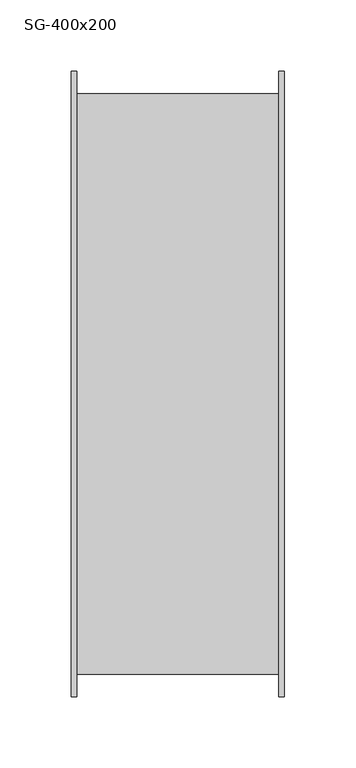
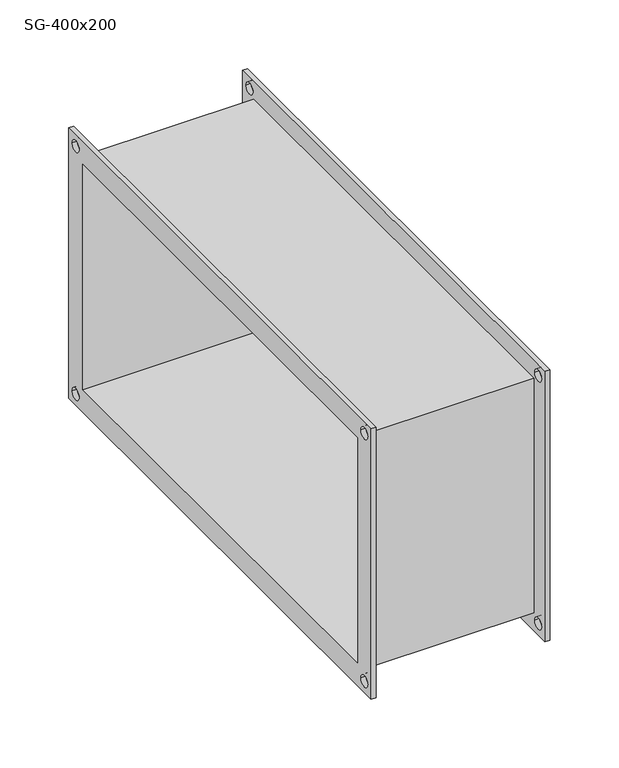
"""IFC4 building model written with IfcOpenShell, lengths in millimetres: damper geometry, СВ_ГибкаяВставка_КанальнаяПрямоугольная_200-1000_SG : SG-400x200."""

from ifc_helpers import new_model, si_unit, frame, origin, place, context, project, spatial, polyline, circle_curve, source, transform, mapped, element, save
from ifc_brep_helpers import plane_surface, revolved_surface, advanced_brep


def sg_400x200_c22b9768(model_context):
    return source(origin(), model_context, "Body", "AdvancedBrep", [
        advanced_brep(
        [(71.0, -204.0, 104.0), (-71.0, -204.0, 104.0), (-71.0, -204.0, -104.0), (71.0, -204.0, -104.0), (-71.0, 204.0, -104.0), (71.0, 204.0, -104.0), (-71.0, 204.0, 104.0), (71.0, 204.0, 104.0), (-75.0, -220.0, 120.0), (-75.0, 220.0, 120.0), (-75.0, 220.0, -120.0), (-75.0, -220.0, -120.0), (-75.0, -200.0, 100.0), (-75.0, -200.0, -100.0), (-75.0, 200.0, -100.0), (-75.0, 200.0, 100.0), (-75.0, 205.0, 110.0), (-75.0, 215.0, 110.0), (-75.0, 205.0, -110.0), (-75.0, 215.0, -110.0), (-75.0, -215.0, 110.0), (-75.0, -205.0, 110.0), (-75.0, -215.0, -110.0), (-75.0, -205.0, -110.0), (-71.0, -220.0, 120.0), (-71.0, -220.0, -120.0), (-71.0, 220.0, -120.0), (-71.0, 220.0, 120.0), (-71.0, 215.0, 110.0), (-71.0, 205.0, 110.0), (-71.0, 215.0, -110.0), (-71.0, 205.0, -110.0), (-71.0, -205.0, 110.0), (-71.0, -215.0, 110.0), (-71.0, -205.0, -110.0), (-71.0, -215.0, -110.0), (71.0, 220.0, 120.0), (71.0, 220.0, -120.0), (71.0, -220.0, -120.0), (71.0, -220.0, 120.0), (71.0, 205.0, 110.0), (71.0, 215.0, 110.0), (71.0, 205.0, -110.0), (71.0, 215.0, -110.0), (71.0, -215.0, 110.0), (71.0, -205.0, 110.0), (71.0, -215.0, -110.0), (71.0, -205.0, -110.0), (75.0, 220.0, 120.0), (75.0, -220.0, 120.0), (75.0, -220.0, -120.0), (75.0, 220.0, -120.0), (75.0, 200.0, 100.0), (75.0, 200.0, -100.0), (75.0, -200.0, -100.0), (75.0, -200.0, 100.0), (75.0, 215.0, 110.0), (75.0, 205.0, 110.0), (75.0, 215.0, -110.0), (75.0, 205.0, -110.0), (75.0, -205.0, 110.0), (75.0, -215.0, 110.0), (75.0, -205.0, -110.0), (75.0, -215.0, -110.0)],
        [
            (0, 1),
            (1, 2),
            (2, 3),
            (3, 0),
            (2, 4),
            (4, 5),
            (5, 3),
            (4, 6),
            (6, 7),
            (7, 5),
            (0, 7),
            (6, 1),
            (8, 9),
            (9, 10),
            (10, 11),
            (11, 8),
            (12, 13),
            (13, 14),
            (14, 15),
            (15, 12),
            (16, 17, circle_curve(frame((-75.0, 210.0, 110.0), z_axis=(1.0, 0.0, 0.0), x_axis=(0.0, 1.0, 0.0)), 5.0)),
            (17, 16, circle_curve(frame((-75.0, 210.0, 110.0), z_axis=(1.0, 0.0, 0.0), x_axis=(0.0, 1.0, 0.0)), 5.0)),
            (18, 19, circle_curve(frame((-75.0, 210.0, -110.0), z_axis=(1.0, 0.0, 0.0), x_axis=(0.0, 1.0, 0.0)), 5.0)),
            (19, 18, circle_curve(frame((-75.0, 210.0, -110.0), z_axis=(1.0, 0.0, 0.0), x_axis=(0.0, 1.0, 0.0)), 5.0)),
            (20, 21, circle_curve(frame((-75.0, -210.0, 110.0), z_axis=(1.0, 0.0, 0.0), x_axis=(0.0, 1.0, 0.0)), 5.0)),
            (21, 20, circle_curve(frame((-75.0, -210.0, 110.0), z_axis=(1.0, 0.0, 0.0), x_axis=(0.0, 1.0, 0.0)), 5.0)),
            (22, 23, circle_curve(frame((-75.0, -210.0, -110.0), z_axis=(1.0, 0.0, 0.0), x_axis=(0.0, 1.0, 0.0)), 5.0)),
            (23, 22, circle_curve(frame((-75.0, -210.0, -110.0), z_axis=(1.0, 0.0, 0.0), x_axis=(0.0, 1.0, 0.0)), 5.0)),
            (24, 25),
            (25, 26),
            (26, 27),
            (27, 24),
            (28, 29, circle_curve(frame((-71.0, 210.0, 110.0), z_axis=(-1.0, 0.0, 0.0), x_axis=(0.0, 1.0, 0.0)), 5.0)),
            (29, 28, circle_curve(frame((-71.0, 210.0, 110.0), z_axis=(-1.0, 0.0, 0.0), x_axis=(0.0, 1.0, 0.0)), 5.0)),
            (30, 31, circle_curve(frame((-71.0, 210.0, -110.0), z_axis=(-1.0, 0.0, 0.0), x_axis=(0.0, 1.0, 0.0)), 5.0)),
            (31, 30, circle_curve(frame((-71.0, 210.0, -110.0), z_axis=(-1.0, 0.0, 0.0), x_axis=(0.0, 1.0, 0.0)), 5.0)),
            (32, 33, circle_curve(frame((-71.0, -210.0, 110.0), z_axis=(-1.0, 0.0, 0.0), x_axis=(0.0, 1.0, 0.0)), 5.0)),
            (33, 32, circle_curve(frame((-71.0, -210.0, 110.0), z_axis=(-1.0, 0.0, 0.0), x_axis=(0.0, 1.0, 0.0)), 5.0)),
            (34, 35, circle_curve(frame((-71.0, -210.0, -110.0), z_axis=(-1.0, 0.0, 0.0), x_axis=(0.0, 1.0, 0.0)), 5.0)),
            (35, 34, circle_curve(frame((-71.0, -210.0, -110.0), z_axis=(-1.0, 0.0, 0.0), x_axis=(0.0, 1.0, 0.0)), 5.0)),
            (11, 25),
            (24, 8),
            (10, 26),
            (9, 27),
            (36, 37),
            (37, 38),
            (38, 39),
            (39, 36),
            (40, 41, circle_curve(frame((71.0, 210.0, 110.0), z_axis=(1.0, 0.0, 0.0), x_axis=(0.0, 1.0, 0.0)), 5.0)),
            (41, 40, circle_curve(frame((71.0, 210.0, 110.0), z_axis=(1.0, 0.0, 0.0), x_axis=(0.0, 1.0, 0.0)), 5.0)),
            (42, 43, circle_curve(frame((71.0, 210.0, -110.0), z_axis=(1.0, 0.0, 0.0), x_axis=(0.0, 1.0, 0.0)), 5.0)),
            (43, 42, circle_curve(frame((71.0, 210.0, -110.0), z_axis=(1.0, 0.0, 0.0), x_axis=(0.0, 1.0, 0.0)), 5.0)),
            (44, 45, circle_curve(frame((71.0, -210.0, 110.0), z_axis=(1.0, 0.0, 0.0), x_axis=(0.0, 1.0, 0.0)), 5.0)),
            (45, 44, circle_curve(frame((71.0, -210.0, 110.0), z_axis=(1.0, 0.0, 0.0), x_axis=(0.0, 1.0, 0.0)), 5.0)),
            (46, 47, circle_curve(frame((71.0, -210.0, -110.0), z_axis=(1.0, 0.0, 0.0), x_axis=(0.0, 1.0, 0.0)), 5.0)),
            (47, 46, circle_curve(frame((71.0, -210.0, -110.0), z_axis=(1.0, 0.0, 0.0), x_axis=(0.0, 1.0, 0.0)), 5.0)),
            (48, 49),
            (49, 50),
            (50, 51),
            (51, 48),
            (52, 53),
            (53, 54),
            (54, 55),
            (55, 52),
            (56, 57, circle_curve(frame((75.0, 210.0, 110.0), z_axis=(-1.0, 0.0, 0.0), x_axis=(0.0, 1.0, 0.0)), 5.0)),
            (57, 56, circle_curve(frame((75.0, 210.0, 110.0), z_axis=(-1.0, 0.0, 0.0), x_axis=(0.0, 1.0, 0.0)), 5.0)),
            (58, 59, circle_curve(frame((75.0, 210.0, -110.0), z_axis=(-1.0, 0.0, 0.0), x_axis=(0.0, 1.0, 0.0)), 5.0)),
            (59, 58, circle_curve(frame((75.0, 210.0, -110.0), z_axis=(-1.0, 0.0, 0.0), x_axis=(0.0, 1.0, 0.0)), 5.0)),
            (60, 61, circle_curve(frame((75.0, -210.0, 110.0), z_axis=(-1.0, 0.0, 0.0), x_axis=(0.0, 1.0, 0.0)), 5.0)),
            (61, 60, circle_curve(frame((75.0, -210.0, 110.0), z_axis=(-1.0, 0.0, 0.0), x_axis=(0.0, 1.0, 0.0)), 5.0)),
            (62, 63, circle_curve(frame((75.0, -210.0, -110.0), z_axis=(-1.0, 0.0, 0.0), x_axis=(0.0, 1.0, 0.0)), 5.0)),
            (63, 62, circle_curve(frame((75.0, -210.0, -110.0), z_axis=(-1.0, 0.0, 0.0), x_axis=(0.0, 1.0, 0.0)), 5.0)),
            (39, 49),
            (48, 36),
            (38, 50),
            (37, 51),
            (15, 52),
            (55, 12),
            (14, 53),
            (13, 54),
            (16, 29),
            (28, 17),
            (40, 57),
            (56, 41),
            (18, 31),
            (30, 19),
            (42, 59),
            (58, 43),
            (20, 33),
            (32, 21),
            (44, 61),
            (60, 45),
            (22, 35),
            (34, 23),
            (46, 63),
            (62, 47),
        ],
        [
            plane_surface(frame((71.0, -204.0, 104.0), z_axis=(0.0, -1.0, 0.0), x_axis=(-1.0, 0.0, 0.0))),
            plane_surface(frame((71.0, -204.0, -104.0), z_axis=(0.0, 0.0, -1.0), x_axis=(-1.0, 0.0, 0.0))),
            plane_surface(frame((71.0, 204.0, -104.0), z_axis=(0.0, 1.0, 0.0), x_axis=(-1.0, 0.0, 0.0))),
            plane_surface(frame((71.0, 204.0, 104.0), z_axis=(0.0, 0.0, 1.0), x_axis=(-1.0, 0.0, 0.0))),
            plane_surface(frame((-75.0, -220.0, 120.0), z_axis=(-1.0, 0.0, 0.0), x_axis=(0.0, 0.0, 1.0))),
            plane_surface(frame((-71.0, -220.0, 120.0), z_axis=(1.0, 0.0, 0.0), x_axis=(0.0, 0.0, -1.0))),
            plane_surface(frame((-71.0, -220.0, 120.0), z_axis=(0.0, -1.0, 0.0), x_axis=(-1.0, 0.0, 0.0))),
            plane_surface(frame((-71.0, -220.0, -120.0), z_axis=(0.0, 0.0, -1.0), x_axis=(-1.0, 0.0, 0.0))),
            plane_surface(frame((-71.0, 220.0, -120.0), z_axis=(0.0, 1.0, 0.0), x_axis=(-1.0, 0.0, 0.0))),
            plane_surface(frame((-71.0, 220.0, 120.0), z_axis=(0.0, 0.0, 1.0), x_axis=(-1.0, 0.0, 0.0))),
            plane_surface(frame((71.0, 200.0, -100.0), z_axis=(-1.0, 0.0, 0.0), x_axis=(0.0, 0.0, 1.0))),
            plane_surface(frame((75.0, 200.0, -100.0), z_axis=(1.0, 0.0, 0.0), x_axis=(0.0, 0.0, -1.0))),
            plane_surface(frame((75.0, 220.0, 120.0), z_axis=(0.0, 0.0, 1.0), x_axis=(-1.0, 0.0, 0.0))),
            plane_surface(frame((75.0, -220.0, 120.0), z_axis=(0.0, -1.0, 0.0), x_axis=(-1.0, 0.0, 0.0))),
            plane_surface(frame((75.0, -220.0, -120.0), z_axis=(0.0, 0.0, -1.0), x_axis=(-1.0, 0.0, 0.0))),
            plane_surface(frame((75.0, 220.0, -120.0), z_axis=(0.0, 1.0, 0.0), x_axis=(-1.0, 0.0, 0.0))),
            plane_surface(frame((-71.0, -200.0, 100.0), z_axis=(0.0, 0.0, -1.0), x_axis=(-1.0, 0.0, 0.0))),
            plane_surface(frame((-71.0, 200.0, 100.0), z_axis=(0.0, -1.0, 0.0), x_axis=(-1.0, 0.0, 0.0))),
            plane_surface(frame((-71.0, 200.0, -100.0), z_axis=(0.0, 0.0, 1.0), x_axis=(-1.0, 0.0, 0.0))),
            plane_surface(frame((-71.0, -200.0, -100.0), z_axis=(0.0, 1.0, 0.0), x_axis=(-1.0, 0.0, 0.0))),
            revolved_surface(polyline([(-71.0, 215.0, 110.0), (-75.0, 215.0, 110.0)]), (-75.0, 210.0, 110.0), (1.0, 0.0, 0.0)),
            revolved_surface(polyline([(75.0, 215.0, 110.0), (71.0, 215.0, 110.0)]), (-75.0, 210.0, 110.0), (1.0, 0.0, 0.0)),
            revolved_surface(polyline([(-71.0, 215.0, -110.0), (-75.0, 215.0, -110.0)]), (0.0, 210.0, -110.0), (1.0, 0.0, 0.0)),
            revolved_surface(polyline([(75.0, 215.0, -110.0), (71.0, 215.0, -110.0)]), (0.0, 210.0, -110.0), (1.0, 0.0, 0.0)),
            revolved_surface(polyline([(-71.0, -205.0, 110.0), (-75.0, -205.0, 110.0)]), (0.0, -210.0, 110.0), (1.0, 0.0, 0.0)),
            revolved_surface(polyline([(75.0, -205.0, 110.0), (71.0, -205.0, 110.0)]), (0.0, -210.0, 110.0), (1.0, 0.0, 0.0)),
            revolved_surface(polyline([(-71.0, -205.0, -110.0), (-75.0, -205.0, -110.0)]), (0.0, -210.0, -110.0), (1.0, 0.0, 0.0)),
            revolved_surface(polyline([(75.0, -205.0, -110.0), (71.0, -205.0, -110.0)]), (0.0, -210.0, -110.0), (1.0, 0.0, 0.0)),
        ],
        [
            (0, [[1, 2, 3, 4]]),
            (1, [[-3, 5, 6, 7]]),
            (2, [[-6, 8, 9, 10]]),
            (3, [[-1, 11, -9, 12]]),
            (4, [[13, 14, 15, 16], [17, 18, 19, 20], [21, 22], [23, 24], [25, 26], [27, 28]]),
            (5, [[29, 30, 31, 32], [-2, -12, -8, -5], [33, 34], [35, 36], [37, 38], [39, 40]]),
            (6, [[-16, 41, -29, 42]]),
            (7, [[-15, 43, -30, -41]]),
            (8, [[-14, 44, -31, -43]]),
            (9, [[-13, -42, -32, -44]]),
            (10, [[45, 46, 47, 48], [-4, -7, -10, -11], [49, 50], [51, 52], [53, 54], [55, 56]]),
            (11, [[57, 58, 59, 60], [61, 62, 63, 64], [65, 66], [67, 68], [69, 70], [71, 72]]),
            (12, [[-48, 73, -57, 74]]),
            (13, [[-47, 75, -58, -73]]),
            (14, [[-46, 76, -59, -75]]),
            (15, [[-45, -74, -60, -76]]),
            (16, [[-20, 77, -64, 78]]),
            (17, [[-77, -19, 79, -61]]),
            (18, [[-79, -18, 80, -62]]),
            (19, [[-80, -17, -78, -63]]),
            (20, [[81, -33, 82, -21]]),
            (21, [[83, -65, 84, -49]]),
            (20, [[-81, -22, -82, -34]]),
            (21, [[-83, -50, -84, -66]]),
            (22, [[85, -35, 86, -23]]),
            (23, [[87, -67, 88, -51]]),
            (22, [[-85, -24, -86, -36]]),
            (23, [[-87, -52, -88, -68]]),
            (24, [[89, -37, 90, -25]]),
            (25, [[91, -69, 92, -53]]),
            (24, [[-89, -26, -90, -38]]),
            (25, [[-91, -54, -92, -70]]),
            (26, [[93, -39, 94, -27]]),
            (27, [[95, -71, 96, -55]]),
            (26, [[-93, -28, -94, -40]]),
            (27, [[-95, -56, -96, -72]]),
        ],
    ),
    ])


if __name__ == "__main__":
    model = new_model("IFC4")
    model_context = context("Model", 3, world=origin())
    ifc_project = project(units=[si_unit("LENGTHUNIT", "METRE", prefix="MILLI")], contexts=[model_context])
    site = spatial("IfcSite", under=ifc_project)
    building = spatial("IfcBuilding", under=site)
    placement = place(None, origin())
    sg_400x200_shape = sg_400x200_c22b9768(model_context)
    element("IfcDamper", 1, ObjectType="СВ_ГибкаяВставка_КанальнаяПрямоугольная_200-1000_SG : SG-400x200", at=placement, inside=building, context=model_context, shape_type="MappedRepresentation", body=[
        mapped(sg_400x200_shape, transform((0.0, 0.0, 0.0), x_axis=(1.0, 0.0, 0.0), y_axis=(0.0, 1.0, 0.0), z_axis=(0.0, 0.0, 1.0))),
    ])
    save(model, "model.ifc")
